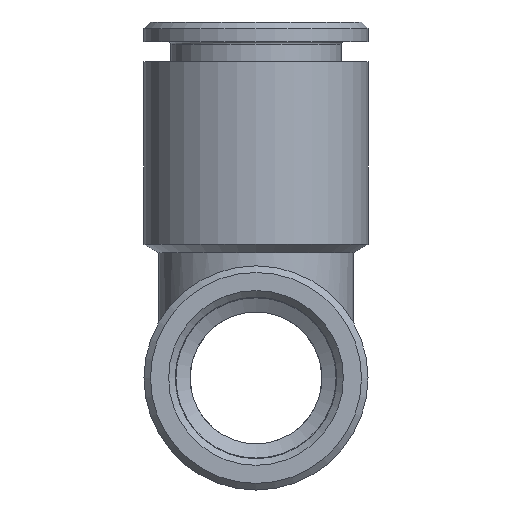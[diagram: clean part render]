
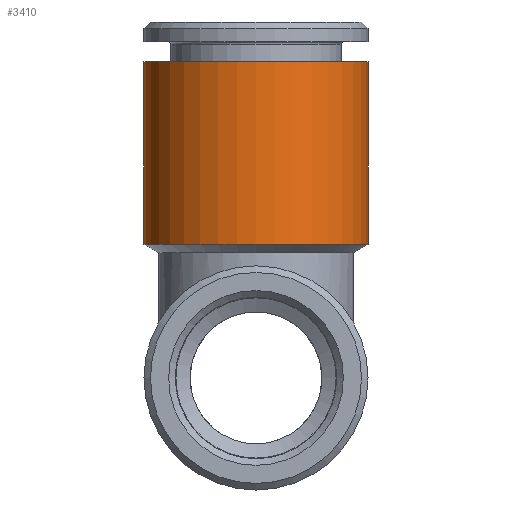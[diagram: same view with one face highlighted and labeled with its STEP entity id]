
A CAD part, left-side view. The second image highlights one B-rep face of the part: STEP entity #3410.
In plain terms, the highlighted cylindrical face has radius 8.5 mm (diameter 17 mm), a full revolution.
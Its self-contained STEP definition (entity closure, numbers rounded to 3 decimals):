
#3410=ADVANCED_FACE('', (#3420,#3430), #3440, .T.);
#9320=AXIS2_PLACEMENT_3D('Ax2Pl3d', #9330, #9340, #9350);
#10520=AXIS2_PLACEMENT_3D('Ax2Pl3d', #10530, #10540, #10550);
#10560=AXIS2_PLACEMENT_3D('Ax2Pl3d', #10570, #10580, #10590);
#9330=CARTESIAN_POINT('HicPkt', (60.124,-66.437,
63.877));
#14260=CARTESIAN_POINT('', (51.624,-66.437,63.877))
;
#10530=CARTESIAN_POINT('HicPkt', (60.124,-66.437,
50.012));
#10570=CARTESIAN_POINT('HicPkt', (60.124,-66.437,
50.012));
#14400=CARTESIAN_POINT('', (51.624,-66.437,50.012))
;
#15070=CIRCLE('Circle', #9320, 8.5);
#15200=CIRCLE('Circle', #10560, 8.5);
#3440=CYLINDRICAL_SURFACE('Zyl', #10520, 8.5);
#9340=DIRECTION('Axis', (0.,0.,-1.));
#9350=DIRECTION('RefDirection', (-1.,-0.,0.));
#10540=DIRECTION('Axis', (0.,0.,1.));
#10550=DIRECTION('RefDirection', (1.,0.,-0.));
#10580=DIRECTION('Axis', (0.,0.,-1.));
#10590=DIRECTION('RefDirection', (-1.,-0.,0.));
#19590=EDGE_CURVE('', #19600, #19600, #15070, .T.);
#19890=EDGE_CURVE('', #19900, #19900, #15200, .T.);
#23270=EDGE_LOOP('Edge_loop', (#23280));
#23290=EDGE_LOOP('Edge_loop', (#23300));
#3430=FACE_BOUND('', #23290, .T.);
#3420=FACE_OUTER_BOUND('Face_outer_bound', #23270, .T.);
#23280=ORIENTED_EDGE('', *, *, #19590, .T.);
#23300=ORIENTED_EDGE('', *, *, #19890, .F.);
#19600=VERTEX_POINT('', #14260);
#19900=VERTEX_POINT('', #14400);
